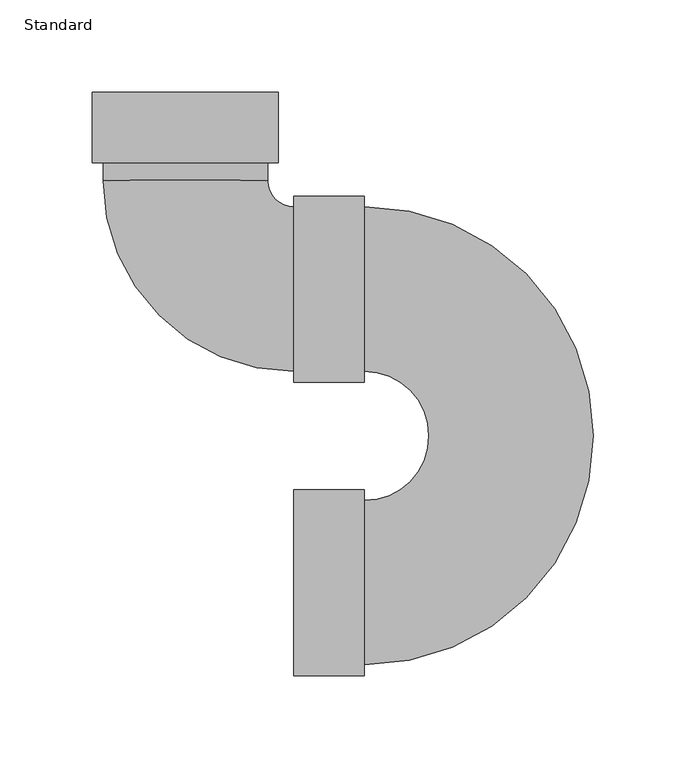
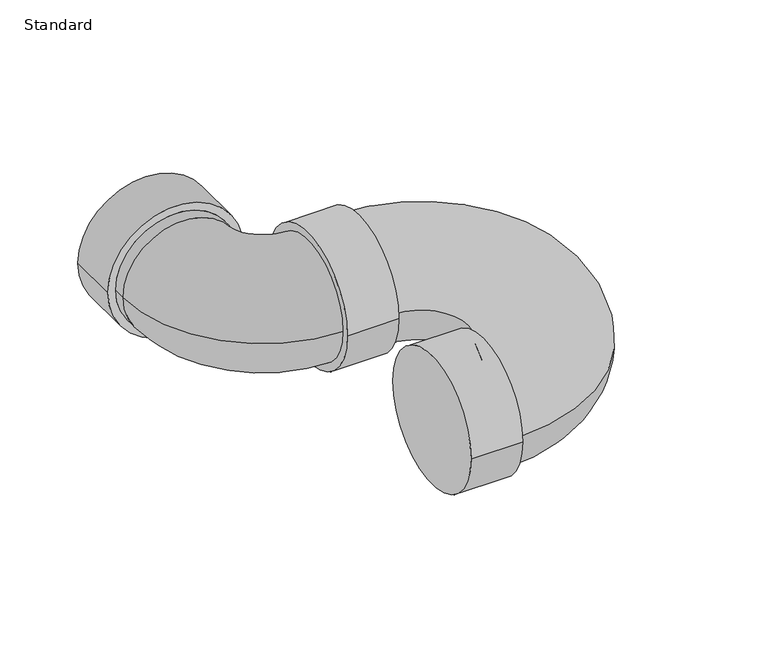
"""IFC4 building model written with IfcOpenShell, lengths in millimetres: pipe fitting geometry, GES P TRAP PVC Sch 40 - DWV : Standard."""

from ifc_helpers import new_model, si_unit, point, frame, origin, place, context, project, spatial, circle_curve, ellipse_curve, trimmed, source, transform, mapped, element, save
from ifc_brep_helpers import plane_surface, cylinder_surface, revolved_surface, advanced_brep


def standard_07684040(model_context):
    return source(origin(), model_context, "Body", "AdvancedBrep", [
        advanced_brep(
        [(-50.2666, 265.1125, 0.0), (50.2666, 265.1125, 0.0), (-50.2666, 227.0125, 0.0), (50.2666, 227.0125, 0.0), (-44.45, 227.0125, 0.0), (44.45, 227.0125, 0.0), (44.45, 217.4875, 0.0), (-44.45, 217.4875, 0.0), (58.7375, 114.3, 0.0), (58.7375, 203.2, 0.0), (96.8375, -44.45, 0.0), (96.8375, 203.2, 0.0), (96.8375, 114.3, 0.0), (96.8375, 44.45, 0.0), (58.7375, 108.4834, 0.0), (58.7375, 209.0166, 0.0), (96.8375, 108.4834, 0.0), (96.8375, 209.0166, 0.0), (58.7375, -50.2666, 0.0), (58.7375, 50.2666, 0.0), (96.8375, -50.2666, 0.0), (96.8375, 50.2666, 0.0)],
        [
            (0, 1, circle_curve(frame((0.0, 265.1125, 0.0), z_axis=(0.0, 1.0, 0.0), x_axis=(1.0, 0.0, 0.0)), 50.2666)),
            (1, 0, circle_curve(frame((0.0, 265.1125, 0.0), z_axis=(0.0, 1.0, 0.0), x_axis=(1.0, 0.0, 0.0)), 50.2666)),
            (2, 3, circle_curve(frame((0.0, 227.0125, 0.0), z_axis=(0.0, -1.0, 0.0), x_axis=(1.0, 0.0, 0.0)), 50.2666)),
            (3, 2, circle_curve(frame((0.0, 227.0125, 0.0), z_axis=(0.0, -1.0, 0.0), x_axis=(1.0, 0.0, 0.0)), 50.2666)),
            (4, 5, circle_curve(frame((0.0, 227.0125, 0.0), z_axis=(0.0, 1.0, 0.0), x_axis=(1.0, 0.0, 0.0)), 44.45)),
            (5, 4, circle_curve(frame((0.0, 227.0125, 0.0), z_axis=(0.0, 1.0, 0.0), x_axis=(1.0, 0.0, 0.0)), 44.45)),
            (0, 2),
            (3, 1),
            (6, 7, circle_curve(frame((0.0, 217.4875, 0.0), z_axis=(0.0, -1.0, 0.0), x_axis=(1.0, 0.0, 0.0)), 44.45)),
            (7, 8, circle_curve(frame((58.7375, 217.4875, 0.0), z_axis=(0.0, 0.0, 1.0), x_axis=(-1.0, 0.0, 0.0)), 103.1875)),
            (8, 9, circle_curve(frame((58.7375, 158.75, 0.0), z_axis=(-1.0, 0.0, 0.0), x_axis=(0.0, 1.0, 0.0)), 44.45)),
            (9, 6, circle_curve(frame((58.7375, 217.4875, 0.0), z_axis=(0.0, 0.0, -1.0), x_axis=(-1.0, 0.0, 0.0)), 14.2875)),
            (7, 6, circle_curve(frame((0.0, 217.4875, 0.0), z_axis=(0.0, -1.0, 0.0), x_axis=(1.0, 0.0, 0.0)), 44.45)),
            (9, 8, circle_curve(frame((58.7375, 158.75, 0.0), z_axis=(-1.0, 0.0, 0.0), x_axis=(0.0, 1.0, 0.0)), 44.45)),
            (10, 11, circle_curve(frame((96.8375, 79.375, 0.0), z_axis=(0.0, 0.0, 1.0), x_axis=(0.0, 1.0, 0.0)), 123.825)),
            (11, 12, circle_curve(frame((96.8375, 158.75, 0.0), z_axis=(1.0, 0.0, 0.0), x_axis=(0.0, 1.0, 0.0)), 44.45)),
            (12, 13, circle_curve(frame((96.8375, 79.375, 0.0), z_axis=(0.0, 0.0, -1.0), x_axis=(0.0, 1.0, 0.0)), 34.925)),
            (13, 10, circle_curve(frame((96.8375, 0.0, 0.0), z_axis=(1.0, 0.0, 0.0), x_axis=(0.0, -1.0, 0.0)), 44.45)),
            (10, 13, circle_curve(frame((96.8375, 0.0, 0.0), z_axis=(1.0, 0.0, 0.0), x_axis=(0.0, -1.0, 0.0)), 44.45)),
            (12, 11, circle_curve(frame((96.8375, 158.75, 0.0), z_axis=(1.0, 0.0, 0.0), x_axis=(0.0, 1.0, 0.0)), 44.45)),
            (14, 15, circle_curve(frame((58.7375, 158.75, 0.0), z_axis=(-1.0, 0.0, 0.0), x_axis=(0.0, 1.0, 0.0)), 50.2666)),
            (15, 14, circle_curve(frame((58.7375, 158.75, 0.0), z_axis=(-1.0, 0.0, 0.0), x_axis=(0.0, 1.0, 0.0)), 50.2666)),
            (16, 17, circle_curve(frame((96.8375, 158.75, 0.0), z_axis=(1.0, 0.0, 0.0), x_axis=(0.0, 1.0, 0.0)), 50.2666)),
            (17, 16, circle_curve(frame((96.8375, 158.75, 0.0), z_axis=(1.0, 0.0, 0.0), x_axis=(0.0, 1.0, 0.0)), 50.2666)),
            (14, 16),
            (17, 15),
            (18, 19, circle_curve(frame((58.7375, 0.0, 0.0), z_axis=(-1.0, 0.0, 0.0), x_axis=(0.0, 1.0, 0.0)), 50.2666)),
            (19, 18, circle_curve(frame((58.7375, 0.0, 0.0), z_axis=(-1.0, 0.0, 0.0), x_axis=(0.0, 1.0, 0.0)), 50.2666)),
            (20, 21, circle_curve(frame((96.8375, 0.0, 0.0), z_axis=(1.0, 0.0, 0.0), x_axis=(0.0, 1.0, 0.0)), 50.2666)),
            (21, 20, circle_curve(frame((96.8375, 0.0, 0.0), z_axis=(1.0, 0.0, 0.0), x_axis=(0.0, 1.0, 0.0)), 50.2666)),
            (18, 20),
            (21, 19),
            (6, 5),
            (4, 7),
        ],
        [
            plane_surface(frame((0.0, 265.1125, 0.0), z_axis=(0.0, 1.0, 0.0), x_axis=(0.0, 0.0, 1.0))),
            plane_surface(frame((0.0, 227.0125, 0.0), z_axis=(0.0, -1.0, 0.0), x_axis=(0.0, 0.0, 1.0))),
            cylinder_surface(frame((0.0, 265.1125, 0.0), z_axis=(0.0, 1.0, 0.0), x_axis=(1.0, 0.0, 0.0)), 50.2666),
            revolved_surface(trimmed(ellipse_curve(frame((0.0, 217.4875, 0.0), z_axis=(0.0, 1.0, 0.0), x_axis=(1.0, 0.0, 0.0)), 44.45, 44.45), [point((-44.45, 217.4875, 0.0))], [point((44.45, 217.4875, 0.0))], True, "CARTESIAN"), (58.7375, 217.4875, 0.0), (0.0, 0.0, 1.0)),
            revolved_surface(trimmed(ellipse_curve(frame((0.0, 217.4875, 0.0), z_axis=(0.0, 1.0, 0.0), x_axis=(1.0, 0.0, 0.0)), 44.45, 44.45), [point((44.45, 217.4875, 0.0))], [point((-44.45, 217.4875, 0.0))], True, "CARTESIAN"), (58.7375, 217.4875, 0.0), (0.0, 0.0, 1.0)),
            revolved_surface(trimmed(ellipse_curve(frame((96.8375, 158.75, 0.0), z_axis=(-1.0, 0.0, 0.0), x_axis=(0.0, 1.0, 0.0)), 44.45, 44.45), [point((96.8375, 114.3, 0.0))], [point((96.8375, 203.2, 0.0))], True, "CARTESIAN"), (96.8375, 79.375, 0.0), (0.0, 0.0, -1.0)),
            revolved_surface(trimmed(ellipse_curve(frame((96.8375, 158.75, 0.0), z_axis=(-1.0, 0.0, 0.0), x_axis=(0.0, 1.0, 0.0)), 44.45, 44.45), [point((96.8375, 203.2, 0.0))], [point((96.8375, 114.3, 0.0))], True, "CARTESIAN"), (96.8375, 79.375, 0.0), (0.0, 0.0, -1.0)),
            plane_surface(frame((58.7375, 158.75, 0.0), z_axis=(-1.0, 0.0, 0.0), x_axis=(0.0, 0.0, 1.0))),
            plane_surface(frame((96.8375, 158.75, 0.0), z_axis=(1.0, 0.0, 0.0), x_axis=(0.0, 0.0, 1.0))),
            cylinder_surface(frame((58.7375, 158.75, 0.0), z_axis=(-1.0, 0.0, 0.0), x_axis=(0.0, 1.0, 0.0)), 50.2666),
            plane_surface(frame((58.7375, 0.0, 0.0), z_axis=(-1.0, 0.0, 0.0), x_axis=(0.0, 0.0, 1.0))),
            plane_surface(frame((96.8375, 0.0, 0.0), z_axis=(1.0, 0.0, 0.0), x_axis=(0.0, 0.0, 1.0))),
            cylinder_surface(frame((58.7375, 0.0, 0.0), z_axis=(-1.0, 0.0, 0.0), x_axis=(0.0, 1.0, 0.0)), 50.2666),
            cylinder_surface(frame((0.0, 265.1125, 0.0), z_axis=(0.0, 1.0, 0.0), x_axis=(1.0, 0.0, 0.0)), 44.45),
        ],
        [
            (0, [[1, 2]]),
            (1, [[3, 4], [5, 6]]),
            (2, [[-1, 7, -4, 8]]),
            (2, [[-2, -8, -3, -7]]),
            (3, [[9, 10, 11, 12]]),
            (4, [[13, -12, 14, -10]]),
            (5, [[15, 16, 17, 18]]),
            (6, [[-15, 19, -17, 20]]),
            (7, [[21, 22], [-11, -14]]),
            (8, [[23, 24], [-16, -20]]),
            (9, [[-21, 25, -24, 26]]),
            (9, [[-22, -26, -23, -25]]),
            (10, [[27, 28]]),
            (11, [[29, 30], [-18, -19]]),
            (12, [[-27, 31, -30, 32]]),
            (12, [[-28, -32, -29, -31]]),
            (13, [[-9, 33, -5, 34]]),
            (13, [[-13, -34, -6, -33]]),
        ],
    ),
    ])


if __name__ == "__main__":
    model = new_model("IFC4")
    model_context = context("Model", 3, world=origin())
    ifc_project = project(units=[si_unit("LENGTHUNIT", "METRE", prefix="MILLI")], contexts=[model_context])
    site = spatial("IfcSite", under=ifc_project)
    building = spatial("IfcBuilding", under=site)
    placement = place(None, origin())
    standard_shape = standard_07684040(model_context)
    element("IfcPipeFitting", 1, ObjectType="GES P TRAP PVC Sch 40 - DWV : Standard", at=placement, inside=building, context=model_context, shape_type="MappedRepresentation", body=[
        mapped(standard_shape, transform((0.0, 0.0, 0.0), x_axis=(1.0, 0.0, 0.0), y_axis=(0.0, 1.0, 0.0), z_axis=(0.0, 0.0, 1.0))),
    ])
    save(model, "model.ifc")
